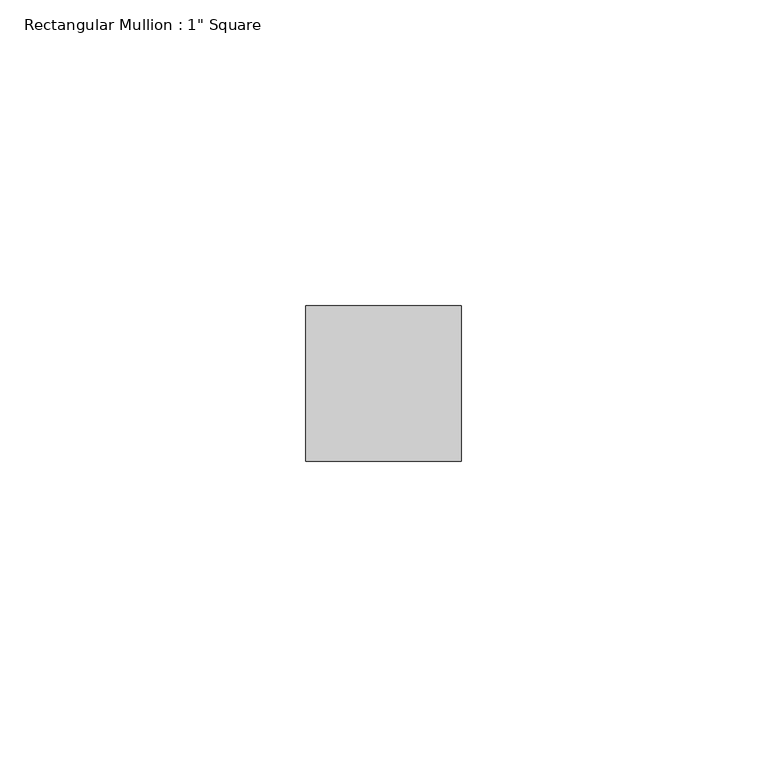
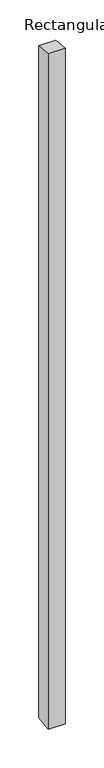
"""IFC4 building model written with IfcOpenShell, lengths in millimetres: member geometry."""

from ifc_helpers import new_model, si_unit, frame, origin, place, context, project, spatial, polyline, outline, extrude, source, transform, mapped, element, save


def member_bc2e3a47(model_context):
    return source(origin(), model_context, "Body", "SweptSolid", [
        extrude(outline(polyline([(-12.7, 1.4413691), (12.7, -1.4413691), (12.7, -1065.3569018), (-12.7, -1068.2430982), (-12.7, 1.4413691)])), frame((-12.7, 0.0, 0.0), z_axis=(1.0, 0.0, 0.0), x_axis=(0.0, 1.0, 0.0)), (0.0, 0.0, 1.0), 25.4),
    ])


if __name__ == "__main__":
    model = new_model("IFC4")
    model_context = context("Model", 3, world=origin())
    ifc_project = project(units=[si_unit("LENGTHUNIT", "METRE", prefix="MILLI")], contexts=[model_context])
    site = spatial("IfcSite", under=ifc_project)
    building = spatial("IfcBuilding", under=site)
    placement = place(None, origin())
    member_shape = member_bc2e3a47(model_context)
    element("IfcMember", 1, ObjectType="Rectangular Mullion : 1\" Square", at=placement, inside=building, context=model_context, shape_type="MappedRepresentation", body=[
        mapped(member_shape, transform((0.0, 0.0, 0.0), x_axis=(1.0, 0.0, 0.0), y_axis=(0.0, 1.0, 0.0), z_axis=(0.0, 0.0, 1.0))),
    ])
    save(model, "model.ifc")
